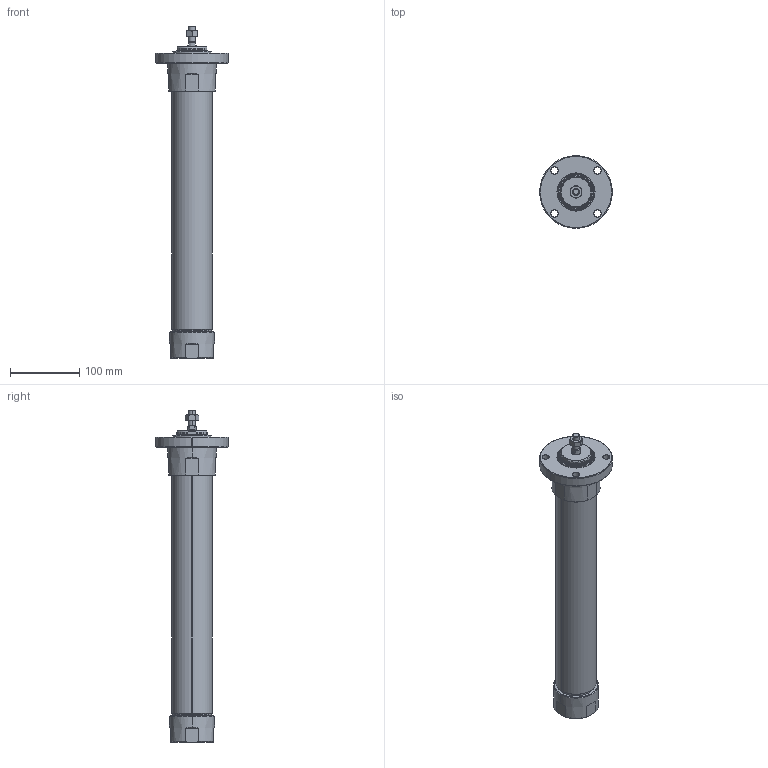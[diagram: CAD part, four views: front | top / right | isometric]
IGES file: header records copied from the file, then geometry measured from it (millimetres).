
Start section: SolidWorks IGES file using analytic representation for surfaces
Global section: file name: 4HC:\Documents and Settings\Administrator\桌面\PCL40套疊式氣缸.IGS; native system: SolidWorks 2012; preprocessor: SolidWorks 2012; author: Administrator; date: 140702.104145; units: millimetre
Bounding box: 105 x 105 x 479.5 mm (x, y, z)
Surface area: 141394.3 mm2 (no closed solid volume)
Topology: 0 solids, 0 shells, 238 faces, 5322 edges, 5848 vertices
Faces by surface type: revolution 178, bspline 60
